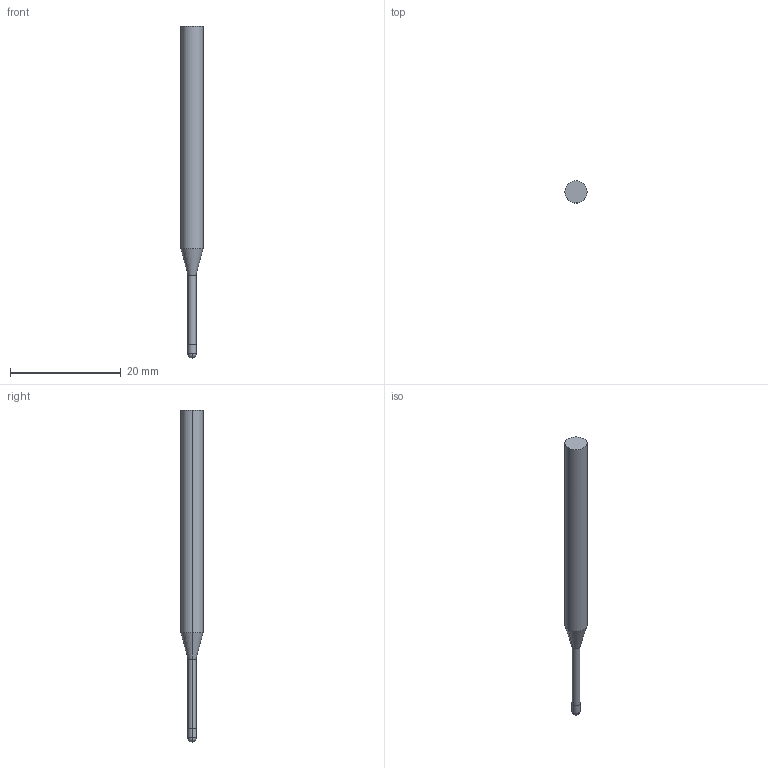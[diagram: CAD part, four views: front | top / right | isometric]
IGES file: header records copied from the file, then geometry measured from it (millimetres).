
Start section: 3D InterOp IGES (v. 2020 1.0.1), Spatial Corp. Copyright (c) 1999-2017.
Global section: file name: WZF28896_1.5_15.igs; native system: Spatial Corp.; preprocessor: 3D InterOp GENERIC/IGES 3.0; author: Noname; organization: Noname; date: 20201007.094002; units: metre
Bounding box: 4 x 4 x 59.99 mm (x, y, z)
Surface area: 629.2 mm2 (no closed solid volume)
Topology: 0 solids, 0 shells, 14 faces, 56 edges, 52 vertices
Faces by surface type: revolution 12, extrusion 2
